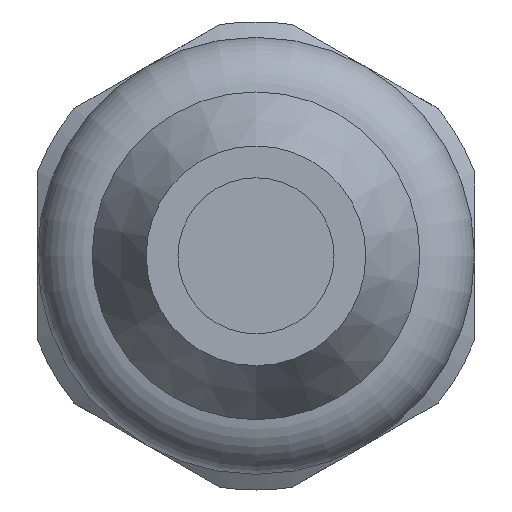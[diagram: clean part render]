
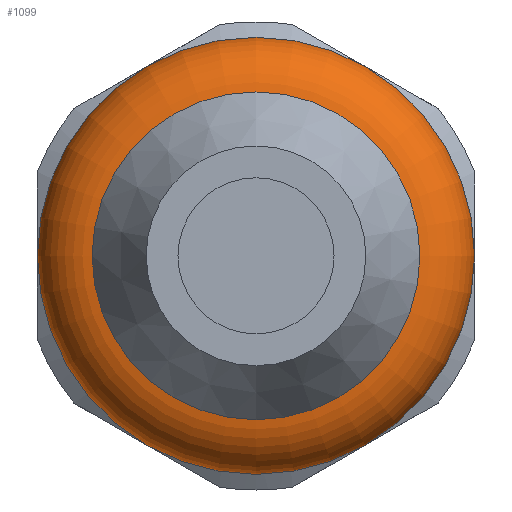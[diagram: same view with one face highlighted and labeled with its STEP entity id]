
A CAD part, left-side view. The second image highlights one B-rep face of the part: STEP entity #1099.
In plain terms, the highlighted toroidal (fillet/blend) face has major radius 5 mm and minor radius 2 mm.
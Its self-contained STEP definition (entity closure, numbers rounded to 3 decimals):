
#20=TOROIDAL_SURFACE('',#1184,5.,2.);
#198=ORIENTED_EDGE('',*,*,#354,.T.);
#199=ORIENTED_EDGE('',*,*,#355,.F.);
#354=EDGE_CURVE('',#430,#430,#485,.T.);
#355=EDGE_CURVE('',#431,#431,#486,.T.);
#430=VERTEX_POINT('',#1614);
#431=VERTEX_POINT('',#1617);
#485=CIRCLE('',#1183,5.25);
#486=CIRCLE('',#1185,7.);
#536=EDGE_LOOP('',(#198));
#537=EDGE_LOOP('',(#199));
#623=FACE_BOUND('',#536,.T.);
#624=FACE_BOUND('',#537,.T.);
#1099=ADVANCED_FACE('',(#623,#624),#20,.T.);
#1183=AXIS2_PLACEMENT_3D('',#1613,#1349,#1350);
#1184=AXIS2_PLACEMENT_3D('',#1615,#1351,#1352);
#1185=AXIS2_PLACEMENT_3D('',#1616,#1353,#1354);
#1349=DIRECTION('',(1.,0.,0.));
#1350=DIRECTION('',(0.,0.,-1.));
#1351=DIRECTION('',(1.,0.,0.));
#1352=DIRECTION('',(0.,0.,-1.));
#1353=DIRECTION('',(1.,0.,0.));
#1354=DIRECTION('',(0.,0.,-1.));
#1613=CARTESIAN_POINT('',(16.016,0.,0.));
#1614=CARTESIAN_POINT('',(16.016,0.,-5.25));
#1615=CARTESIAN_POINT('',(18.,0.,0.));
#1616=CARTESIAN_POINT('',(18.,0.,0.));
#1617=CARTESIAN_POINT('',(18.,0.,-7.));
